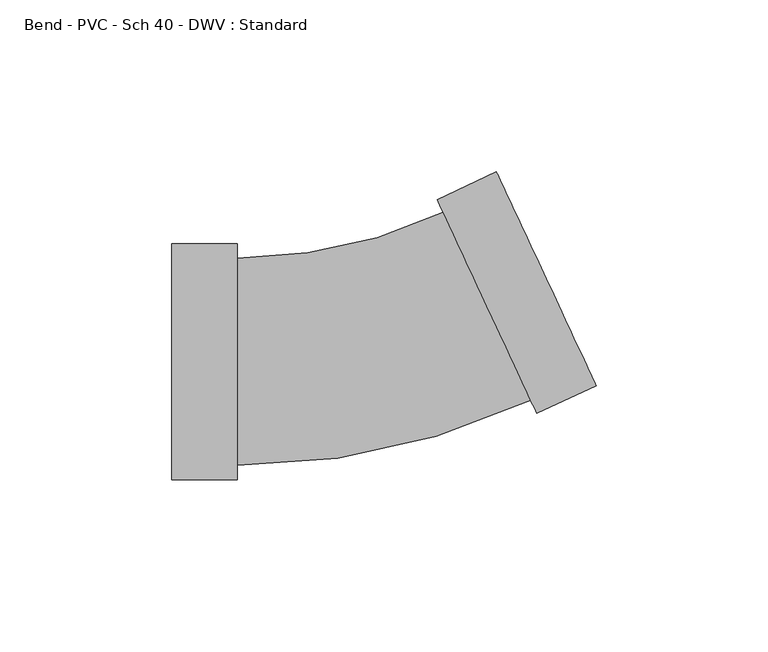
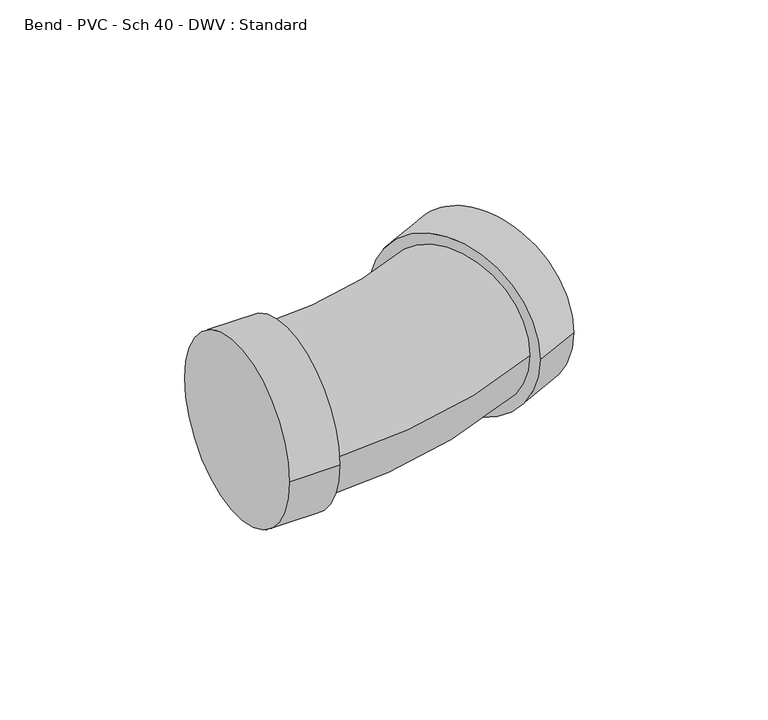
"""IFC4 building model written with IfcOpenShell, lengths in millimetres: pipe fitting geometry, Bend - PVC - Sch 40 - DWV : Standard."""

from ifc_helpers import new_model, si_unit, point, frame, origin, place, context, project, spatial, circle_curve, ellipse_curve, trimmed, source, transform, mapped, element, save
from ifc_brep_helpers import plane_surface, cylinder_surface, revolved_surface, advanced_brep


def bend_pvc_sch_40_dwv_standard_edfad06d(model_context):
    return source(origin(), model_context, "Body", "AdvancedBrep", [
        advanced_brep(
        [(-57.15, -34.3154, 0.0), (-57.15, 34.3154, 0.0), (-38.1, -34.3154, 0.0), (-38.1, 34.3154, 0.0), (-38.1, -30.1625, 0.0), (-38.1, 30.1625, 0.0), (21.7830976, 43.4382673, 0.0), (47.2775515, -11.2347466, 0.0), (49.0326434, -14.9985519, 0.0), (20.0280057, 47.2020727, 0.0), (66.2978057, -6.9476718, 0.0), (37.293168, 55.2529529, 0.0)],
        [
            (0, 1, circle_curve(frame((-57.15, 0.0, 0.0), z_axis=(-1.0, 0.0, 0.0), x_axis=(0.0, 1.0, 0.0)), 34.3154)),
            (1, 0, circle_curve(frame((-57.15, 0.0, 0.0), z_axis=(-1.0, 0.0, 0.0), x_axis=(0.0, 1.0, 0.0)), 34.3154)),
            (2, 3, circle_curve(frame((-38.1, 0.0, 0.0), z_axis=(1.0, 0.0, 0.0), x_axis=(0.0, 1.0, 0.0)), 34.3154)),
            (3, 2, circle_curve(frame((-38.1, 0.0, 0.0), z_axis=(1.0, 0.0, 0.0), x_axis=(0.0, 1.0, 0.0)), 34.3154)),
            (4, 5, circle_curve(frame((-38.1, 0.0, 0.0), z_axis=(-1.0, 0.0, 0.0), x_axis=(0.0, 1.0, 0.0)), 30.1625)),
            (5, 4, circle_curve(frame((-38.1, 0.0, 0.0), z_axis=(-1.0, 0.0, 0.0), x_axis=(0.0, 1.0, 0.0)), 30.1625)),
            (0, 2),
            (3, 1),
            (6, 5, circle_curve(frame((-38.1, 171.8579399, 0.0), z_axis=(0.0, 0.0, -1.0), x_axis=(0.0, -1.0, 0.0)), 141.6954399)),
            (4, 7, circle_curve(frame((-38.1, 171.8579399, 0.0), z_axis=(0.0, 0.0, 1.0), x_axis=(0.0, -1.0, 0.0)), 202.0204399)),
            (7, 6, circle_curve(frame((34.5303245, 16.1017604, 0.0), z_axis=(-0.9063077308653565, -0.42261838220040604, 0.0), x_axis=(-0.42261838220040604, 0.9063077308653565, 0.0)), 30.1625)),
            (6, 7, circle_curve(frame((34.5303245, 16.1017604, 0.0), z_axis=(-0.9063077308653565, -0.42261838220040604, 0.0), x_axis=(-0.42261838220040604, 0.9063077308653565, 0.0)), 30.1625)),
            (8, 9, circle_curve(frame((34.5303245, 16.1017604, 0.0), z_axis=(-0.9063077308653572, -0.42261838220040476, 0.0), x_axis=(-0.42261838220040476, 0.9063077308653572, 0.0)), 34.3154)),
            (9, 8, circle_curve(frame((34.5303245, 16.1017604, 0.0), z_axis=(-0.9063077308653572, -0.42261838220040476, 0.0), x_axis=(-0.42261838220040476, 0.9063077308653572, 0.0)), 34.3154)),
            (10, 11, circle_curve(frame((51.7954868, 24.1526405, 0.0), z_axis=(0.9063077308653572, 0.42261838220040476, 0.0), x_axis=(-0.42261838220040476, 0.9063077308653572, 0.0)), 34.3154)),
            (11, 10, circle_curve(frame((51.7954868, 24.1526405, 0.0), z_axis=(0.9063077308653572, 0.42261838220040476, 0.0), x_axis=(-0.42261838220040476, 0.9063077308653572, 0.0)), 34.3154)),
            (8, 10),
            (11, 9),
        ],
        [
            plane_surface(frame((-57.15, 0.0, 0.0), z_axis=(-1.0, 0.0, 0.0), x_axis=(0.0, 0.0, 1.0))),
            plane_surface(frame((-38.1, 0.0, 0.0), z_axis=(1.0, 0.0, 0.0), x_axis=(0.0, 0.0, 1.0))),
            cylinder_surface(frame((-57.15, 0.0, 0.0), z_axis=(-1.0, 0.0, 0.0), x_axis=(0.0, 1.0, 0.0)), 34.3154),
            revolved_surface(trimmed(ellipse_curve(frame((-38.1, 0.0, 0.0), z_axis=(-1.0, 0.0, 0.0), x_axis=(0.0, 1.0, 0.0)), 30.1625, 30.1625), [point((-38.1, -30.1625, 0.0))], [point((-38.1, 30.1625, 0.0))], True, "CARTESIAN"), (-38.1, 171.8579399, 0.0), (0.0, 0.0, 1.0)),
            revolved_surface(trimmed(ellipse_curve(frame((-38.1, 0.0, 0.0), z_axis=(-1.0, 0.0, 0.0), x_axis=(0.0, 1.0, 0.0)), 30.1625, 30.1625), [point((-38.1, 30.1625, 0.0))], [point((-38.1, -30.1625, 0.0))], True, "CARTESIAN"), (-38.1, 171.8579399, 0.0), (0.0, 0.0, 1.0)),
            plane_surface(frame((34.5303245, 16.1017604, 0.0), z_axis=(-0.9063077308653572, -0.42261838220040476, 0.0), x_axis=(0.0, 0.0, 1.0))),
            plane_surface(frame((51.7954868, 24.1526405, 0.0), z_axis=(0.9063077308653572, 0.42261838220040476, 0.0), x_axis=(0.0, 0.0, 1.0))),
            cylinder_surface(frame((34.5303245, 16.1017604, 0.0), z_axis=(-0.9063077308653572, -0.42261838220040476, 0.0), x_axis=(-0.42261838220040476, 0.9063077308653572, 0.0)), 34.3154),
        ],
        [
            (0, [[1, 2]]),
            (1, [[3, 4], [5, 6]]),
            (2, [[-1, 7, -4, 8]]),
            (2, [[-2, -8, -3, -7]]),
            (3, [[9, -5, 10, 11]]),
            (4, [[-9, 12, -10, -6]]),
            (5, [[13, 14], [-11, -12]]),
            (6, [[15, 16]]),
            (7, [[-13, 17, -16, 18]]),
            (7, [[-14, -18, -15, -17]]),
        ],
    ),
    ])


if __name__ == "__main__":
    model = new_model("IFC4")
    model_context = context("Model", 3, world=origin())
    ifc_project = project(units=[si_unit("LENGTHUNIT", "METRE", prefix="MILLI")], contexts=[model_context])
    site = spatial("IfcSite", under=ifc_project)
    building = spatial("IfcBuilding", under=site)
    placement = place(None, origin())
    bend_pvc_sch_40_dwv_standard_shape = bend_pvc_sch_40_dwv_standard_edfad06d(model_context)
    element("IfcPipeFitting", 1, ObjectType="Bend - PVC - Sch 40 - DWV : Standard", at=placement, inside=building, context=model_context, shape_type="MappedRepresentation", body=[
        mapped(bend_pvc_sch_40_dwv_standard_shape, transform((0.0, 0.0, 0.0), x_axis=(1.0, 0.0, 0.0), y_axis=(0.0, 1.0, 0.0), z_axis=(0.0, 0.0, 1.0))),
    ])
    save(model, "model.ifc")
